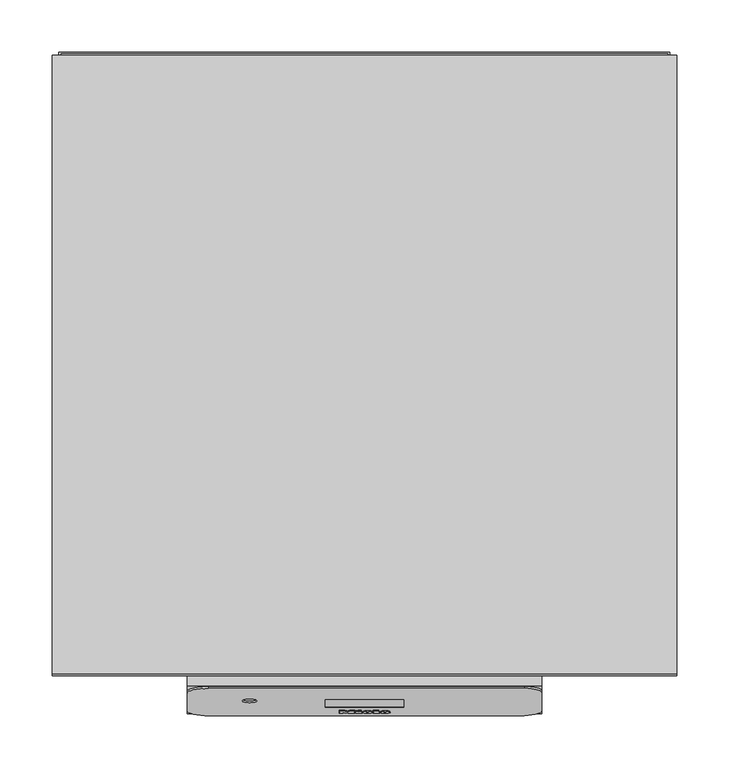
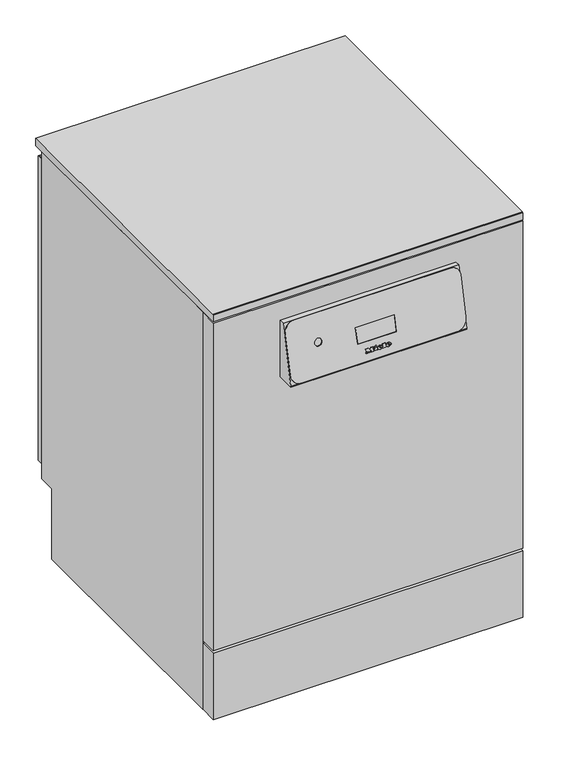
"""IFC4 building model written with IfcOpenShell, lengths in millimetres: proxy geometry, 12065590_NWE_PFD401_SST : 61040110_NWE_12065590_PFD401_SST."""

from ifc_helpers import new_model, si_unit, point, frame, frame_2d, origin, origin_with_axes, place, context, project, spatial, polyline, circle_curve, ellipse_curve, trimmed, segment, composite_curve, outline, extrude, faceted_brep, source, transform, mapped, element, save
from ifc_brep_helpers import plane_surface, cylinder_surface, revolved_surface, extruded_surface, advanced_brep


def specialty_equipment_2b4fe27a(model_context):
    return source(origin(), model_context, "Body", "SolidModel", [
        advanced_brep(
        [(19.2098411, -35.3170778, 679.7116041), (19.2098411, -35.1353173, 680.4988951), (24.5618411, -35.1353173, 680.4988951), (15.2498411, -35.1353173, 680.4988951), (17.4498411, -35.743585, 677.8641985), (24.4258411, -35.3170778, 679.7116041), (22.0098411, -35.3170778, 679.7116041), (20.1058411, -35.5186339, 678.8385685), (19.2098411, -34.9049675, 681.4966501), (19.2098411, -34.7088101, 682.3463008), (20.5778411, -34.7088101, 682.3463008), (20.5778411, -34.9049675, 681.4966501), (19.2098411, -34.3427077, 679.4866531), (20.1058411, -34.5442639, 678.6136175), (22.0098411, -34.3427077, 679.4866531), (24.4258411, -34.3427077, 679.4866531), (17.4498411, -34.7692149, 677.6392474), (15.2498411, -34.1609473, 680.2739441), (24.5618411, -34.1609473, 680.2739441), (19.2098411, -34.1609473, 680.2739441), (19.2098411, -33.9305974, 681.271699), (20.5778411, -33.9305974, 681.271699), (20.5778411, -33.7344401, 682.1213497), (19.2098411, -33.7344401, 682.1213497)],
        [
            (0, 1),
            (1, 2),
            (2, 3, ellipse_curve(frame((19.9058411, -35.1353173, 680.4988951), z_axis=(0.0, -0.9743700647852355, 0.22495105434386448), x_axis=(-1.0, 0.0, 0.0)), 4.656, 3.848)),
            (3, 4, circle_curve(frame((18.3458847, -35.0741307, 680.7639238), z_axis=(0.0, -0.9743700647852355, 0.22495105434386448), x_axis=(0.0, -0.22495105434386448, -0.9743700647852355)), 3.1079688)),
            (4, 5, circle_curve(frame((19.8126347, -34.599034, 682.8217934), z_axis=(0.0, -0.9743700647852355, 0.22495105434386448), x_axis=(0.0, -0.22495105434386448, -0.9743700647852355)), 5.6098607)),
            (5, 6),
            (6, 7, circle_curve(frame((20.4968999, -35.1497142, 680.4365354), z_axis=(0.0, 0.9743700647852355, -0.22495105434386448), x_axis=(0.0, -0.22495105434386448, -0.9743700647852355)), 1.6859795)),
            (7, 0, circle_curve(frame((20.1058411, -35.3170778, 679.7116041), z_axis=(0.0, 0.9743700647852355, -0.22495105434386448), x_axis=(0.0, -0.22495105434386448, -0.9743700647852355)), 0.896)),
            (8, 9),
            (9, 10, circle_curve(frame((19.8938411, -34.7088101, 682.3463008), z_axis=(0.0, 0.9743700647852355, -0.22495105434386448), x_axis=(0.0, -0.22495105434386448, -0.9743700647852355)), 0.684)),
            (10, 11),
            (11, 8),
            (12, 13, circle_curve(frame((20.1058411, -34.3427077, 679.4866531), z_axis=(0.0, -0.9743700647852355, 0.22495105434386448), x_axis=(0.0, -0.22495105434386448, -0.9743700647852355)), 0.896)),
            (13, 14, circle_curve(frame((20.4968999, -34.1753441, 680.2115844), z_axis=(0.0, -0.9743700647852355, 0.22495105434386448), x_axis=(0.0, -0.22495105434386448, -0.9743700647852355)), 1.6859795)),
            (14, 15),
            (15, 16, circle_curve(frame((19.8126347, -33.624664, 682.5968423), z_axis=(0.0, 0.9743700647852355, -0.22495105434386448), x_axis=(0.0, -0.22495105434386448, -0.9743700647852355)), 5.6098607)),
            (16, 17, circle_curve(frame((18.3458847, -34.0997606, 680.5389727), z_axis=(0.0, 0.9743700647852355, -0.22495105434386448), x_axis=(0.0, -0.22495105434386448, -0.9743700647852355)), 3.1079688)),
            (17, 18, ellipse_curve(frame((19.9058411, -34.1609473, 680.2739441), z_axis=(0.0, 0.9743700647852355, -0.22495105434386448), x_axis=(-1.0, 0.0, 0.0)), 4.656, 3.848)),
            (18, 19),
            (19, 12),
            (20, 21),
            (21, 22),
            (22, 23, circle_curve(frame((19.8938411, -33.7344401, 682.1213497), z_axis=(0.0, -0.9743700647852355, 0.22495105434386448), x_axis=(0.0, -0.22495105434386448, -0.9743700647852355)), 0.684)),
            (23, 20),
            (0, 12),
            (19, 1),
            (18, 2),
            (5, 15),
            (14, 6),
            (17, 3),
            (13, 7),
            (16, 4),
            (8, 20),
            (23, 9),
            (22, 10),
            (21, 11),
        ],
        [
            plane_surface(frame((19.2098411, -35.1353173, 680.4988951), z_axis=(0.0, -0.9743700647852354, 0.22495105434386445), x_axis=(0.0, 0.22495105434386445, 0.9743700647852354))),
            plane_surface(frame((19.2098411, -34.1609473, 680.2739441), z_axis=(0.0, 0.9743700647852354, -0.22495105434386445), x_axis=(0.0, -0.22495105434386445, -0.9743700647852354))),
            plane_surface(frame((19.2098411, -35.3170778, 679.7116041), z_axis=(1.0, 0.0, 0.0), x_axis=(0.0, 0.9743700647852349, -0.22495105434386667))),
            plane_surface(frame((19.2098411, -35.1353173, 680.4988951), z_axis=(0.0, -0.22495105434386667, -0.9743700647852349), x_axis=(0.0, 0.9743700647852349, -0.22495105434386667))),
            plane_surface(frame((24.4258411, -35.3170778, 679.7116041), z_axis=(0.0, 0.22495105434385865, 0.9743700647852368), x_axis=(0.0, 0.9743700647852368, -0.22495105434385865))),
            extruded_surface(trimmed(ellipse_curve(frame((19.9058411, -33.1865772, 680.048993), z_axis=(0.0, -0.9743700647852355, 0.22495105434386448), x_axis=(-1.0, 0.0, 0.0)), 4.656, 3.848), [point((24.5618411, -33.1865772, 680.048993))], [point((15.2498411, -33.1865772, 680.048993))], True, "CARTESIAN"), (0.0, -0.9743700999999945, 0.2249510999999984), 1.0000000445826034),
            revolved_surface(polyline([(20.4968999, -34.55460696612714, 678.5688164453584), (20.4968999, -35.52897707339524, 678.7937675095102)]), (20.4968999, -34.1753441, 680.2115844), (0.0, 0.9743700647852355, -0.22495105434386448)),
            revolved_surface(polyline([(20.1058411, -34.544263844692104, 678.6136175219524), (20.1058411, -35.51863393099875, 678.8385685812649)]), (20.1058411, -34.3427077, 679.4866531), (0.0, 0.9743700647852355, -0.22495105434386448)),
            cylinder_surface(frame((18.3458847, -34.0997606, 680.5389727), z_axis=(0.0, -0.9743700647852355, 0.22495105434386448), x_axis=(0.0, -0.22495105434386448, -0.9743700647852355)), 3.1079688),
            cylinder_surface(frame((19.8126347, -33.624664, 682.5968423), z_axis=(0.0, -0.9743700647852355, 0.22495105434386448), x_axis=(0.0, -0.22495105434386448, -0.9743700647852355)), 5.6098607),
            plane_surface(frame((19.2098411, -34.9049675, 681.4966501), z_axis=(1.0, 0.0, 0.0), x_axis=(0.0, 0.9743700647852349, -0.22495105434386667))),
            revolved_surface(polyline([(19.8938411, -33.8883066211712, 681.4548805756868), (19.8938411, -34.8626766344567, 681.6798316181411)]), (19.8938411, -33.7344401, 682.1213497), (0.0, 0.9743700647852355, -0.22495105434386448)),
            plane_surface(frame((20.5778411, -34.7088101, 682.3463008), z_axis=(-1.0, 0.0, 0.0), x_axis=(0.0, 0.9743700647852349, -0.22495105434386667))),
            plane_surface(frame((20.5778411, -34.9049675, 681.4966501), z_axis=(0.0, 0.22495105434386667, 0.9743700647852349), x_axis=(0.0, 0.9743700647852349, -0.22495105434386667))),
        ],
        [
            (0, [[1, 2, 3, 4, 5, 6, 7, 8], [9, 10, 11, 12]]),
            (1, [[13, 14, 15, 16, 17, 18, 19, 20], [21, 22, 23, 24]]),
            (2, [[-1, 25, -20, 26]]),
            (3, [[-2, -26, -19, 27]]),
            (4, [[-6, 28, -15, 29]]),
            (5, [[-3, -27, -18, 30]]),
            (6, [[-7, -29, -14, 31]]),
            (7, [[-8, -31, -13, -25]]),
            (8, [[-4, -30, -17, 32]]),
            (9, [[-5, -32, -16, -28]]),
            (10, [[-9, 33, -24, 34]]),
            (11, [[-10, -34, -23, 35]]),
            (12, [[-11, -35, -22, 36]]),
            (13, [[-12, -36, -21, -33]]),
        ],
    ),
        advanced_brep(
        [(2.5138411, -35.3170778, 679.7116041), (2.5138411, -35.1353173, 680.4988951), (7.8658411, -35.1353173, 680.4988951), (-1.4461589, -35.1353173, 680.4988951), (0.7538411, -35.743585, 677.8641985), (7.7298411, -35.3170778, 679.7116041), (5.3138411, -35.3170778, 679.7116041), (3.4098411, -35.5186339, 678.8385685), (2.5138411, -34.9049675, 681.4966501), (2.5138411, -34.7088101, 682.3463008), (3.8818411, -34.7088101, 682.3463008), (3.8818411, -34.9049675, 681.4966501), (2.5138411, -34.3427077, 679.4866531), (3.4098411, -34.5442639, 678.6136175), (5.3138411, -34.3427077, 679.4866531), (7.7298411, -34.3427077, 679.4866531), (0.7538411, -34.7692149, 677.6392474), (-1.4461589, -34.1609473, 680.2739441), (7.8658411, -34.1609473, 680.2739441), (2.5138411, -34.1609473, 680.2739441), (2.5138411, -33.9305974, 681.271699), (3.8818411, -33.9305974, 681.271699), (3.8818411, -33.7344401, 682.1213497), (2.5138411, -33.7344401, 682.1213497)],
        [
            (0, 1),
            (1, 2),
            (2, 3, ellipse_curve(frame((3.2098411, -35.1353173, 680.4988951), z_axis=(0.0, -0.9743700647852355, 0.22495105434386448), x_axis=(-1.0, 0.0, 0.0)), 4.656, 3.848)),
            (3, 4, circle_curve(frame((1.6498847, -35.0741307, 680.7639238), z_axis=(0.0, -0.9743700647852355, 0.22495105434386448), x_axis=(0.0, -0.22495105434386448, -0.9743700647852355)), 3.1079688)),
            (4, 5, circle_curve(frame((3.1166347, -34.599034, 682.8217934), z_axis=(0.0, -0.9743700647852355, 0.22495105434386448), x_axis=(0.0, -0.22495105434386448, -0.9743700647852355)), 5.6098607)),
            (5, 6),
            (6, 7, circle_curve(frame((3.8008999, -35.1497142, 680.4365354), z_axis=(0.0, 0.9743700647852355, -0.22495105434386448), x_axis=(0.0, -0.22495105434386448, -0.9743700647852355)), 1.6859795)),
            (7, 0, circle_curve(frame((3.4098411, -35.3170778, 679.7116041), z_axis=(0.0, 0.9743700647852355, -0.22495105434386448), x_axis=(0.0, -0.22495105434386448, -0.9743700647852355)), 0.896)),
            (8, 9),
            (9, 10, circle_curve(frame((3.1978411, -34.7088101, 682.3463008), z_axis=(0.0, 0.9743700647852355, -0.22495105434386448), x_axis=(0.0, -0.22495105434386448, -0.9743700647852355)), 0.684)),
            (10, 11),
            (11, 8),
            (12, 13, circle_curve(frame((3.4098411, -34.3427077, 679.4866531), z_axis=(0.0, -0.9743700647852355, 0.22495105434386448), x_axis=(0.0, -0.22495105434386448, -0.9743700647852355)), 0.896)),
            (13, 14, circle_curve(frame((3.8008999, -34.1753441, 680.2115844), z_axis=(0.0, -0.9743700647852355, 0.22495105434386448), x_axis=(0.0, -0.22495105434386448, -0.9743700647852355)), 1.6859795)),
            (14, 15),
            (15, 16, circle_curve(frame((3.1166347, -33.624664, 682.5968423), z_axis=(0.0, 0.9743700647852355, -0.22495105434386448), x_axis=(0.0, -0.22495105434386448, -0.9743700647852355)), 5.6098607)),
            (16, 17, circle_curve(frame((1.6498847, -34.0997606, 680.5389727), z_axis=(0.0, 0.9743700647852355, -0.22495105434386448), x_axis=(0.0, -0.22495105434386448, -0.9743700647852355)), 3.1079688)),
            (17, 18, ellipse_curve(frame((3.2098411, -34.1609473, 680.2739441), z_axis=(0.0, 0.9743700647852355, -0.22495105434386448), x_axis=(-1.0, 0.0, 0.0)), 4.656, 3.848)),
            (18, 19),
            (19, 12),
            (20, 21),
            (21, 22),
            (22, 23, circle_curve(frame((3.1978411, -33.7344401, 682.1213497), z_axis=(0.0, -0.9743700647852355, 0.22495105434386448), x_axis=(0.0, -0.22495105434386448, -0.9743700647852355)), 0.684)),
            (23, 20),
            (0, 12),
            (19, 1),
            (18, 2),
            (5, 15),
            (14, 6),
            (17, 3),
            (13, 7),
            (16, 4),
            (8, 20),
            (23, 9),
            (22, 10),
            (21, 11),
        ],
        [
            plane_surface(frame((2.5138411, -35.1353173, 680.4988951), z_axis=(0.0, -0.9743700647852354, 0.22495105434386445), x_axis=(0.0, 0.22495105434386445, 0.9743700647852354))),
            plane_surface(frame((2.5138411, -34.1609473, 680.2739441), z_axis=(0.0, 0.9743700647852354, -0.22495105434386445), x_axis=(0.0, -0.22495105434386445, -0.9743700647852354))),
            plane_surface(frame((2.5138411, -35.3170778, 679.7116041), z_axis=(1.0000000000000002, 0.0, 0.0), x_axis=(0.0, 0.9743700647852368, -0.22495105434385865))),
            plane_surface(frame((2.5138411, -35.1353173, 680.4988951), z_axis=(0.0, -0.22495105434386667, -0.9743700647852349), x_axis=(0.0, 0.9743700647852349, -0.22495105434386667))),
            plane_surface(frame((7.7298411, -35.3170778, 679.7116041), z_axis=(0.0, 0.22495105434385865, 0.9743700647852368), x_axis=(0.0, 0.9743700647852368, -0.22495105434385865))),
            extruded_surface(trimmed(ellipse_curve(frame((3.2098411, -33.1865772, 680.048993), z_axis=(0.0, -0.9743700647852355, 0.22495105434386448), x_axis=(-1.0, 0.0, 0.0)), 4.656, 3.848), [point((7.8658411, -33.1865772, 680.048993))], [point((-1.4461589, -33.1865772, 680.048993))], True, "CARTESIAN"), (0.0, -0.9743700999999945, 0.2249510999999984), 1.0000000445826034),
            revolved_surface(polyline([(3.8008999, -34.55460696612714, 678.5688164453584), (3.8008999, -35.52897707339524, 678.7937675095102)]), (3.8008999, -34.1753441, 680.2115844), (0.0, 0.9743700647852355, -0.22495105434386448)),
            revolved_surface(polyline([(3.4098411, -34.544263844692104, 678.6136175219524), (3.4098411, -35.51863393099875, 678.8385685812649)]), (3.4098411, -34.3427077, 679.4866531), (0.0, 0.9743700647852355, -0.22495105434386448)),
            cylinder_surface(frame((1.6498847, -34.0997606, 680.5389727), z_axis=(0.0, -0.9743700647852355, 0.22495105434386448), x_axis=(0.0, -0.22495105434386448, -0.9743700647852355)), 3.1079688),
            cylinder_surface(frame((3.1166347, -33.624664, 682.5968423), z_axis=(0.0, -0.9743700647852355, 0.22495105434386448), x_axis=(0.0, -0.22495105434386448, -0.9743700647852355)), 5.6098607),
            plane_surface(frame((2.5138411, -34.9049675, 681.4966501), z_axis=(1.0, 0.0, 0.0), x_axis=(0.0, 0.9743700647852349, -0.22495105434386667))),
            revolved_surface(polyline([(3.1978411, -33.8883066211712, 681.4548805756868), (3.1978411, -34.8626766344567, 681.6798316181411)]), (3.1978411, -33.7344401, 682.1213497), (0.0, 0.9743700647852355, -0.22495105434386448)),
            plane_surface(frame((3.8818411, -34.7088101, 682.3463008), z_axis=(-1.0, 0.0, 0.0), x_axis=(0.0, 0.9743700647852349, -0.22495105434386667))),
            plane_surface(frame((3.8818411, -34.9049675, 681.4966501), z_axis=(0.0, 0.22495105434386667, 0.9743700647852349), x_axis=(0.0, 0.9743700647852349, -0.22495105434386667))),
        ],
        [
            (0, [[1, 2, 3, 4, 5, 6, 7, 8], [9, 10, 11, 12]]),
            (1, [[13, 14, 15, 16, 17, 18, 19, 20], [21, 22, 23, 24]]),
            (2, [[-1, 25, -20, 26]]),
            (3, [[-2, -26, -19, 27]]),
            (4, [[-6, 28, -15, 29]]),
            (5, [[-3, -27, -18, 30]]),
            (6, [[-7, -29, -14, 31]]),
            (7, [[-8, -31, -13, -25]]),
            (8, [[-4, -30, -17, 32]]),
            (9, [[-5, -32, -16, -28]]),
            (10, [[-9, 33, -24, 34]]),
            (11, [[-10, -34, -23, 35]]),
            (12, [[-11, -35, -22, 36]]),
            (13, [[-12, -36, -21, -33]]),
        ],
    ),
        extrude(outline(polyline([(0.0, 0.0), (-0.0109087, -2.9993294), (-1.4390415, -2.9920868), (-1.4315307, 0.0), (0.0, 0.0)])), frame((-6.2301589, -33.0757834, 684.9743053), z_axis=(0.0, -0.9743700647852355, 0.2249510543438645), x_axis=(-0.42472021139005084, 0.20365373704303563, 0.8821212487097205)), (0.0, 0.0, 1.0), 1.0),
        extrude(outline(polyline([(-0.4933908, 2.4141097), (-2.7800844, -2.4601583), (-7.0459742, -0.4588767), (-7.4401146, -1.2990179), (-8.6568709, -0.728194), (-5.9760369, 4.9862153), (-4.7592806, 4.4153913), (-5.1636142, 3.5535222), (-2.1941493, 2.16044), (-1.7898157, 3.022309), (-0.4933908, 2.4141097)])), frame((-6.2301589, -33.0757834, 684.9743053), z_axis=(0.0, -0.9743700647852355, 0.2249510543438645), x_axis=(-0.42472021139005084, 0.20365373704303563, 0.8821212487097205)), (0.0, 0.0, 1.0), 1.0),
        extrude(outline(polyline([(0.0, 0.0), (0.0, -1.3039999), (-5.504, -1.3039999), (-5.504, 5.352), (-6.488, 5.352), (-6.488, 6.696), (0.0, 6.696), (0.0, 5.352), (-0.96, 5.352), (-0.96, 0.0), (0.0, 0.0)])), frame((8.3138411, -33.2629427, 684.1636294), z_axis=(0.0, -0.9743700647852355, 0.22495105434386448), x_axis=(-1.0, 0.0, 0.0)), (0.0, 0.0, 1.0), 1.0),
        extrude(outline(polyline([(0.0, 0.0), (0.0, -1.3039999), (-5.576, -1.3039999), (-7.92, 1.6960001), (-10.256, -1.3039999), (-15.128, -1.3039999), (-15.128, 0.0), (-14.112, 0.0), (-14.112, 5.352), (-15.128, 5.352), (-15.128, 6.696), (-8.744, 6.696), (-8.744, 5.352), (-9.728, 5.352), (-9.728, 1.8807777), (-6.136, 6.696), (-2.56, 1.9488752), (-2.56, 5.352), (-3.52, 5.352), (-3.52, 6.696), (0.0, 6.696), (0.0, 5.352), (-0.968, 5.352), (-0.968, 0.0), (0.0, 0.0)])), frame((-24.1501589, -33.2629427, 684.1636294), z_axis=(0.0, -0.9743700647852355, 0.22495105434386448), x_axis=(-1.0, 0.0, 0.0)), (0.0, 0.0, 1.0), 1.0),
        extrude(outline(polyline([(1.7745866, 832.3), (594.2, 832.3), (594.2, 817.0), (0.2, 817.0), (0.2, 830.7254134), (1.7745866, 832.3)])), frame((-299.0, 0.0, 0.0), z_axis=(1.0, 0.0, 0.0), x_axis=(0.0, 1.0, 0.0)), (0.0, 0.0, 1.0), 598.0),
        extrude(outline(polyline([(-0.1038681, 775.5857792), (-0.1038681, 660.0), (-36.1981904, 660.0), (-36.1981904, 662.5588517), (-10.1038681, 775.5857792), (-0.1038681, 775.5857792)])), frame((-169.8831565, 0.0, 0.0), z_axis=(1.0, 0.0, 0.0), x_axis=(0.0, 1.0, 0.0)), (0.0, 0.0, 1.0), 339.766313),
        extrude(outline(polyline([(299.0, 34.0), (299.0, 0.0), (-299.0, 0.0), (-299.0, 34.0), (299.0, 34.0)])), frame((0.0, 0.0, 4.5), z_axis=(0.0, 0.0, 1.0), x_axis=(1.0, 0.0, 0.0)), (0.0, 0.0, 1.0), 135.5),
        extrude(outline(polyline([(299.0, 34.0), (299.0, 0.0), (-299.0, 0.0), (-299.0, 34.0), (299.0, 34.0)])), frame((0.0, 0.0, 145.0), z_axis=(0.0, 0.0, 1.0), x_axis=(1.0, 0.0, 0.0)), (0.0, 0.0, 1.0), 670.0),
        advanced_brep(
        [(153.3281651, -12.0526082, 776.0356813), (-148.8831565, -12.0526082, 776.0356813), (-169.8831565, -16.7765804, 755.57391), (-169.8831565, -33.4229584, 683.4705252), (-148.8831565, -38.1469305, 663.0087538), (148.8831565, -38.1469305, 663.0087538), (169.8831565, -33.4229584, 683.4705252), (169.8831565, -15.776671, 759.9049933), (-102.8831565, -24.0088923, 724.2473253), (-116.8831565, -24.0088923, 724.2473253), (37.5, -23.1425191, 728.0), (37.5, -30.0685648, 698.0), (-37.5, -30.0685648, 698.0), (-37.5, -23.1425191, 728.0), (153.3281651, -10.1038681, 775.5857792), (169.8831565, -13.8279308, 759.4550912), (169.8831565, -31.4742182, 683.0206231), (148.8831565, -36.1981904, 662.5588517), (-148.8831565, -36.1981904, 662.5588517), (-169.8831565, -31.4742182, 683.0206231), (-169.8831565, -14.8278402, 755.1240079), (-148.8831565, -10.1038681, 775.5857792), (37.5, -28.0159566, 698.0), (37.5, -21.0899109, 728.0), (-37.5, -21.0899109, 728.0), (-37.5, -28.0159566, 698.0), (-116.8831565, -22.4281396, 723.8823798), (-102.8831565, -22.4281396, 723.8823798)],
        [
            (0, 1),
            (1, 2, circle_curve(frame((-148.8831565, -16.7765804, 755.57391), z_axis=(0.0, -0.9743700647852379, 0.22495105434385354), x_axis=(1.0, 0.0, 0.0)), 21.0)),
            (2, 3),
            (3, 4, circle_curve(frame((-148.8831565, -33.4229584, 683.4705252), z_axis=(0.0, -0.9743700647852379, 0.22495105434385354), x_axis=(1.0, 0.0, 0.0)), 21.0)),
            (4, 5),
            (5, 6, circle_curve(frame((148.8831565, -33.4229584, 683.4705252), z_axis=(0.0, -0.9743700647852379, 0.22495105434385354), x_axis=(1.0, 0.0, 0.0)), 21.0)),
            (6, 7),
            (7, 0, circle_curve(frame((153.3281651, -15.776671, 759.9049933), z_axis=(0.0, -0.9743700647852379, 0.22495105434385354), x_axis=(1.0, 0.0, 0.0)), 16.5549913)),
            (8, 9, circle_curve(frame((-109.8831565, -24.0088923, 724.2473253), z_axis=(0.0, 0.9743700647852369, -0.22495105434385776), x_axis=(1.0, 0.0, 0.0)), 7.0)),
            (9, 8, circle_curve(frame((-109.8831565, -24.0088923, 724.2473253), z_axis=(0.0, 0.9743700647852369, -0.22495105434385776), x_axis=(1.0, 0.0, 0.0)), 7.0)),
            (10, 11),
            (11, 12),
            (12, 13),
            (13, 10),
            (14, 15, circle_curve(frame((153.3281651, -13.8279308, 759.4550912), z_axis=(0.0, 0.9743700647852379, -0.22495105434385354), x_axis=(1.0, 0.0, 0.0)), 16.5549913)),
            (15, 16),
            (16, 17, circle_curve(frame((148.8831565, -31.4742182, 683.0206231), z_axis=(0.0, 0.9743700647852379, -0.22495105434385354), x_axis=(1.0, 0.0, 0.0)), 21.0)),
            (17, 18),
            (18, 19, circle_curve(frame((-148.8831565, -31.4742182, 683.0206231), z_axis=(0.0, 0.9743700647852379, -0.22495105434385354), x_axis=(1.0, 0.0, 0.0)), 21.0)),
            (19, 20),
            (20, 21, circle_curve(frame((-148.8831565, -14.8278402, 755.1240079), z_axis=(0.0, 0.9743700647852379, -0.22495105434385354), x_axis=(1.0, 0.0, 0.0)), 21.0)),
            (21, 14),
            (22, 23),
            (23, 24),
            (24, 25),
            (25, 22),
            (0, 14),
            (21, 1),
            (20, 2),
            (19, 3),
            (18, 4),
            (17, 5),
            (16, 6),
            (15, 7),
            (10, 23),
            (22, 11),
            (12, 25),
            (24, 13),
            (26, 27, circle_curve(frame((-109.8831565, -22.4281396, 723.8823798), z_axis=(0.0, -0.9743700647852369, 0.22495105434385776), x_axis=(1.0, 0.0, 0.0)), 7.0)),
            (27, 26, circle_curve(frame((-109.8831565, -22.4281396, 723.8823798), z_axis=(0.0, -0.9743700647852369, 0.22495105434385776), x_axis=(1.0, 0.0, 0.0)), 7.0)),
            (26, 9),
            (8, 27),
        ],
        [
            plane_surface(frame((-166.8819453, -12.0526082, 776.0356813), z_axis=(0.0, -0.9743700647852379, 0.22495105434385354), x_axis=(-1.0, 0.0, 0.0))),
            plane_surface(frame((-166.8819453, -10.1038681, 775.5857792), z_axis=(0.0, 0.9743700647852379, -0.22495105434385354), x_axis=(1.0, 0.0, 0.0))),
            plane_surface(frame((153.3281651, -12.0526082, 776.0356813), z_axis=(0.0, 0.22495105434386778, 0.9743700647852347), x_axis=(0.0, 0.9743700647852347, -0.22495105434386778))),
            cylinder_surface(frame((-148.8831565, -14.8278402, 755.1240079), z_axis=(0.0, -0.9743700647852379, 0.22495105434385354), x_axis=(1.0, 0.0, 0.0)), 21.0),
            plane_surface(frame((-169.8831565, -16.7765804, 755.57391), z_axis=(-1.0, 0.0, 0.0), x_axis=(0.0, 0.9743700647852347, -0.22495105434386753))),
            cylinder_surface(frame((-148.8831565, -31.4742182, 683.0206231), z_axis=(0.0, -0.9743700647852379, 0.22495105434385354), x_axis=(1.0, 0.0, 0.0)), 21.0),
            plane_surface(frame((-148.8831565, -38.1469305, 663.0087538), z_axis=(0.0, -0.22495105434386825, -0.9743700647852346), x_axis=(0.0, 0.9743700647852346, -0.22495105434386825))),
            cylinder_surface(frame((148.8831565, -31.4742182, 683.0206231), z_axis=(0.0, -0.9743700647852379, 0.22495105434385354), x_axis=(1.0, 0.0, 0.0)), 21.0),
            plane_surface(frame((169.8831565, -33.4229584, 683.4705252), z_axis=(1.0000000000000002, 0.0, 0.0), x_axis=(0.0, 0.9743700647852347, -0.22495105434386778))),
            cylinder_surface(frame((153.3281651, -13.8279308, 759.4550912), z_axis=(0.0, -0.9743700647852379, 0.22495105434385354), x_axis=(1.0, 0.0, 0.0)), 16.5549913),
            plane_surface(frame((37.5, -23.1425191, 728.0), z_axis=(-1.0000000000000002, 0.0, 0.0), x_axis=(0.0, -0.22495105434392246, -0.974370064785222))),
            plane_surface(frame((-37.5, -23.1425191, 728.0), z_axis=(1.0000000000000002, 0.0, 0.0), x_axis=(0.0, 0.22495105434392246, 0.974370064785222))),
            plane_surface(frame((37.5, -30.0685648, 698.0), z_axis=(0.0, 0.0, 1.0), x_axis=(-1.0, 0.0, 0.0))),
            plane_surface(frame((37.5, -21.0899109, 728.0), z_axis=(0.0, 0.0, -1.0), x_axis=(-1.0, 0.0, 0.0))),
            plane_surface(frame((-102.8831565, -22.4281396, 723.8823798), z_axis=(0.0, -0.9743700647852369, 0.2249510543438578), x_axis=(0.0, -0.2249510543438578, -0.9743700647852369))),
            revolved_surface(polyline([(-102.8831565, -24.008892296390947, 724.2473253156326), (-102.8831565, -22.4281396, 723.8823798)]), (-109.8831565, -22.4281396, 723.8823798), (0.0, -0.9743700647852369, 0.22495105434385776)),
        ],
        [
            (0, [[1, 2, 3, 4, 5, 6, 7, 8], [9, 10], [11, 12, 13, 14]]),
            (1, [[15, 16, 17, 18, 19, 20, 21, 22], [23, 24, 25, 26]]),
            (2, [[-1, 27, -22, 28]]),
            (3, [[-2, -28, -21, 29]]),
            (4, [[-3, -29, -20, 30]]),
            (5, [[-4, -30, -19, 31]]),
            (6, [[-5, -31, -18, 32]]),
            (7, [[-6, -32, -17, 33]]),
            (8, [[-7, -33, -16, 34]]),
            (9, [[-8, -34, -15, -27]]),
            (10, [[35, -23, 36, -11]]),
            (11, [[37, -25, 38, -13]]),
            (12, [[-36, -26, -37, -12]]),
            (13, [[-35, -14, -38, -24]]),
            (14, [[39, 40]]),
            (15, [[-39, 41, -9, 42]]),
            (15, [[-40, -42, -10, -41]]),
        ],
    ),
        extrude(outline(polyline([(-23.1425191, 728.0), (-21.0899109, 728.0), (-28.0159566, 698.0), (-30.0685648, 698.0), (-23.1425191, 728.0)])), frame((-37.5, 0.0, 0.0), z_axis=(1.0, 0.0, 0.0), x_axis=(0.0, 1.0, 0.0)), (0.0, 0.0, 1.0), 75.0),
        extrude(outline(polyline([(35.0, 817.0), (575.0, 817.0), (575.0, 148.0), (541.0, 148.0), (541.0, 4.2000122), (35.0, 4.2000122), (35.0, 817.0)])), frame((-299.0, 0.0, 0.0), z_axis=(1.0, 0.0, 0.0), x_axis=(0.0, 1.0, 0.0)), (0.0, 0.0, 1.0), 598.0),
        extrude(outline(polyline([(-172.0947306, 541.0), (-252.9150967, 541.0), (-252.9150967, 546.8796322), (-172.0947306, 546.8796322), (-172.0947306, 541.0)])), frame((0.0, 0.0, 83.2113443), z_axis=(0.0, 0.0, 1.0), x_axis=(1.0, 0.0, 0.0)), (0.0, 0.0, 1.0), 9.5402229),
        extrude(outline(polyline([(-172.0947306, 541.0), (-252.9150967, 541.0), (-252.9150967, 546.8796322), (-172.0947306, 546.8796322), (-172.0947306, 541.0)])), frame((0.0, 0.0, 49.1113767), z_axis=(0.0, 0.0, 1.0), x_axis=(1.0, 0.0, 0.0)), (0.0, 0.0, 1.0), 11.5700235),
        extrude(outline(polyline([(-172.0947306, 541.0), (-252.9150967, 541.0), (-252.9150967, 546.8796322), (-172.0947306, 546.8796322), (-172.0947306, 541.0)])), frame((0.0, 0.0, 67.2113431), z_axis=(0.0, 0.0, 1.0), x_axis=(1.0, 0.0, 0.0)), (0.0, 0.0, 1.0), 9.5826234),
        faceted_brep([(292.4999939, 597.3069992, 792.0057337), (292.4999939, 575.0, 792.0057337), (292.4999939, 575.0, 170.291519), (292.4999939, 597.3069992, 170.291519), (-292.5000061, 597.3069992, 792.0057337), (-292.5000061, 597.3069992, 170.291519), (-200.000102, 597.3069992, 319.6113699), (-200.000102, 597.3069992, 244.365213), (-125.000102, 597.3069992, 244.365213), (-125.000102, 597.3069992, 319.6113699), (-200.000102, 596.3069992, 244.365213), (-200.000102, 596.3069992, 319.6113699), (-125.000102, 596.3069992, 244.365213), (-125.000102, 596.3069992, 319.6113699), (-292.5000061, 575.0, 792.0057337), (-291.0000061, 575.0, 792.0057337), (-291.0000061, 596.3069992, 792.0057337), (290.9999949, 596.3069992, 792.0057337), (290.9999949, 575.0, 792.0057337), (290.9999949, 575.0, 170.291519), (290.9999949, 596.3069992, 170.291519), (-291.0000061, 596.3069992, 170.291519), (-291.0000061, 575.0, 170.291519), (-292.5000061, 575.0, 170.291519)], [[[0, 1, 2, 3]], [[4, 0, 3, 5], [6, 7, 8, 9]], [[10, 7, 6, 11]], [[7, 10, 12, 8]], [[8, 12, 13, 9]], [[11, 6, 9, 13]], [[0, 4, 14, 15, 16, 17, 18, 1]], [[3, 2, 19, 20, 21, 22, 23, 5]], [[14, 4, 5, 23]], [[15, 14, 23, 22]], [[16, 15, 22, 21]], [[17, 16, 21, 20], [10, 11, 13, 12]], [[18, 17, 20, 19]], [[1, 18, 19, 2]]]),
        extrude(outline(polyline([(70.6242327, 186.565003), (80.6698637, 186.565003), (80.6698637, 179.3447057), (79.4141598, 179.3447057), (79.4141598, 185.3092991), (76.4318631, 185.3092991), (76.4318631, 179.6586317), (75.1761592, 179.6586317), (75.1761592, 185.3092991), (71.8799366, 185.3092991), (71.8799366, 179.1877427), (70.6242327, 179.1877427), (70.6242327, 186.565003)])), frame((0.0, 571.0, 0.0), z_axis=(0.0, 1.0, 0.0), x_axis=(0.0, 0.0, 1.0)), (0.0, 0.0, 1.0), 1.0),
        extrude(outline(polyline([(70.6242327, 177.3041869), (80.6698637, 177.3041869), (80.6698637, 176.048483), (71.8799366, 176.048483), (71.8799366, 171.0256675), (70.6242327, 171.0256675), (70.6242327, 177.3041869)])), frame((0.0, 571.0, 0.0), z_axis=(0.0, 1.0, 0.0), x_axis=(0.0, 0.0, 1.0)), (0.0, 0.0, 1.0), 1.0),
        extrude(outline(polyline([(46.0, 96.7862239), (56.045631, 92.7763102), (56.045631, 91.7069998), (46.0, 87.6970861), (46.0, 89.0239138), (49.1392597, 90.1741582), (49.1392597, 94.3116044), (46.0, 95.4593962), (46.0, 96.7862239)]), holes=[polyline([(50.3949636, 93.8505256), (50.3949636, 90.6327844), (52.864678, 91.5377741), (54.7899271, 92.241655), (53.0805021, 92.8670544), (50.3949636, 93.8505256)])]), frame((0.0, 571.0, 0.0), z_axis=(0.0, 1.0, 0.0), x_axis=(0.0, 0.0, 1.0)), (0.0, 0.0, 1.0), 1.0),
        extrude(outline(polyline([(46.0, 84.5578264), (56.045631, 87.297321), (56.045631, 86.0023764), (49.4433755, 84.4131261), (47.4053092, 83.9226168), (49.207931, 83.3977718), (56.045631, 81.406304), (56.045631, 79.539916), (51.0890343, 78.0929135), (47.4053092, 77.0162455), (49.3845144, 76.5404514), (56.045631, 74.936486), (56.045631, 73.6415413), (46.0, 76.3834885), (46.0, 77.7250315), (53.7500474, 80.1334323), (54.8316204, 80.4694312), (53.5293182, 80.8471233), (46.0, 83.0421526), (46.0, 84.5578264)])), frame((0.0, 571.0, 0.0), z_axis=(0.0, 1.0, 0.0), x_axis=(0.0, 0.0, 1.0)), (0.0, 0.0, 1.0), 1.0),
        extrude(outline(composite_curve([segment(trimmed(circle_curve(frame_2d((51.0, 85.0998392)), 8.0), [point((51.0, 77.0998392))], [point((51.0, 93.0998392))], False, "CARTESIAN"), True, "CONTINUOUS"), segment(trimmed(circle_curve(frame_2d((51.0, 85.0998392)), 8.0), [point((51.0, 93.0998392))], [point((51.0, 77.0998392))], False, "CARTESIAN"), True, "CONTINUOUS")], self_intersect=False)), frame((0.0, 541.0, 0.0), z_axis=(0.0, 1.0, 0.0), x_axis=(0.0, 0.0, 1.0)), (0.0, 0.0, 1.0), 30.0),
        extrude(outline(polyline([(94.6239875, 133.557834), (104.6696185, 136.2973286), (104.6696185, 135.002384), (98.067363, 133.4131338), (96.0292967, 132.9226244), (97.8319185, 132.3977795), (104.6696185, 130.4063116), (104.6696185, 128.5399236), (99.7130218, 127.0929211), (96.0292967, 126.0162531), (98.0085019, 125.5404591), (104.6696185, 123.9364936), (104.6696185, 122.641549), (94.6239875, 125.3834961), (94.6239875, 126.7250391), (102.3740349, 129.1334399), (103.4556079, 129.4694388), (102.1533057, 129.847131), (94.6239875, 132.0421602), (94.6239875, 133.557834)])), frame((0.0, 571.0, 0.0), z_axis=(0.0, 1.0, 0.0), x_axis=(0.0, 0.0, 1.0)), (0.0, 0.0, 1.0), 1.0),
        extrude(outline(polyline([(94.6239875, 144.6163668), (104.6696185, 144.6163668), (104.6696185, 143.3606629), (99.7522625, 143.3606629), (104.6696185, 138.210315), (104.6696185, 136.4542916), (100.53953, 140.7781313), (94.6239875, 136.2973286), (94.6239875, 137.8326228), (99.6909489, 141.6684057), (98.0771732, 143.3606629), (94.6239875, 143.3606629), (94.6239875, 144.6163668)])), frame((0.0, 571.0, 0.0), z_axis=(0.0, 1.0, 0.0), x_axis=(0.0, 0.0, 1.0)), (0.0, 0.0, 1.0), 1.0),
        extrude(outline(polyline([(118.1398187, 18.2077062), (128.1854497, 18.2077062), (128.1854497, 14.7422578), (128.0407495, 12.9494462), (127.3221533, 11.4730132), (125.6053707, 10.283528), (123.2165903, 9.888668), (121.1895605, 10.1559956), (119.7266164, 10.8427087), (118.8154953, 11.7599611), (118.311497, 12.9604827), (118.1398187, 14.5754846), (118.1398187, 18.2077062)]), holes=[polyline([(119.3955226, 16.9520023), (119.3955226, 14.7299951), (119.5770111, 13.1137669), (120.0895933, 12.1817991), (121.3367133, 11.4178309), (123.2362106, 11.1443719), (125.6151809, 11.6802533), (126.728637, 12.9837819), (126.9297459, 14.7643307), (126.9297459, 16.9520023), (119.3955226, 16.9520023)])]), frame((0.0, 571.0, 0.0), z_axis=(0.0, 1.0, 0.0), x_axis=(0.0, 0.0, 1.0)), (0.0, 0.0, 1.0), 1.0),
        extrude(outline(polyline([(121.5930044, 8.6329642), (121.5930044, 7.3772603), (120.3360742, 6.9725901), (119.5414491, 5.9842138), (119.2385596, 4.4783502), (119.4678727, 3.1662377), (120.0981772, 2.3188828), (120.940627, 2.0405188), (121.7242156, 2.2489853), (122.2944327, 3.1024715), (122.7739056, 4.930845), (123.3931736, 6.8990137), (124.3275939, 7.9670977), (125.5759401, 8.3190382), (126.9971909, 7.8837112), (128.0002825, 6.6120657), (128.3424127, 4.7505828), (127.9843409, 2.7640201), (126.9321984, 1.4396449), (125.360116, 0.9417779), (125.360116, 2.1974818), (126.6501555, 2.9087203), (127.0867088, 4.7015319), (126.6550606, 6.4992486), (125.6127283, 7.0633343), (124.7420743, 6.6635692), (124.0406459, 4.6132402), (123.4103414, 2.391233), (122.3925346, 1.1759961), (120.9725101, 0.7848149), (119.4703253, 1.2348572), (118.3740369, 2.5298019), (117.9828557, 4.4292992), (118.4046938, 6.6721531), (119.6751129, 8.0909513), (121.5930044, 8.6329642)])), frame((0.0, 571.0, 0.0), z_axis=(0.0, 1.0, 0.0), x_axis=(0.0, 0.0, 1.0)), (0.0, 0.0, 1.0), 1.0),
        extrude(outline(composite_curve([segment(trimmed(circle_curve(frame_2d((126.8499756, 10.1811127)), 2.9851521), [point((126.8499756, 7.1959606))], [point((126.8499756, 13.1662647))], False, "CARTESIAN"), True, "CONTINUOUS"), segment(trimmed(circle_curve(frame_2d((126.8499756, 10.1811127)), 2.9851521), [point((126.8499756, 13.1662647))], [point((126.8499756, 7.1959606))], False, "CARTESIAN"), True, "CONTINUOUS")], self_intersect=False)), frame((0.0, 541.0, 0.0), z_axis=(0.0, 1.0, 0.0), x_axis=(0.0, 0.0, 1.0)), (0.0, 0.0, 1.0), 30.0),
        extrude(outline(composite_curve([segment(trimmed(circle_curve(frame_2d((117.0999756, 10.1811127)), 3.0), [point((117.0999756, 7.1811127))], [point((117.0999756, 13.1811127))], False, "CARTESIAN"), True, "CONTINUOUS"), segment(trimmed(circle_curve(frame_2d((117.0999756, 10.1811127)), 3.0), [point((117.0999756, 13.1811127))], [point((117.0999756, 7.1811127))], False, "CARTESIAN"), True, "CONTINUOUS")], self_intersect=False)), frame((0.0, 541.0, 0.0), z_axis=(0.0, 1.0, 0.0), x_axis=(0.0, 0.0, 1.0)), (0.0, 0.0, 1.0), 30.0),
        extrude(outline(composite_curve([segment(trimmed(circle_curve(frame_2d((107.3499443, 10.1811127)), 3.0), [point((107.3499443, 7.1811127))], [point((107.3499443, 13.1811127))], False, "CARTESIAN"), True, "CONTINUOUS"), segment(trimmed(circle_curve(frame_2d((107.3499443, 10.1811127)), 3.0), [point((107.3499443, 13.1811127))], [point((107.3499443, 7.1811127))], False, "CARTESIAN"), True, "CONTINUOUS")], self_intersect=False)), frame((0.0, 541.0, 0.0), z_axis=(0.0, 1.0, 0.0), x_axis=(0.0, 0.0, 1.0)), (0.0, 0.0, 1.0), 30.0),
        extrude(outline(composite_curve([segment(trimmed(circle_curve(frame_2d((136.5999756, 10.1811127)), 3.0), [point((136.5999756, 7.1811127))], [point((136.5999756, 13.1811127))], False, "CARTESIAN"), True, "CONTINUOUS"), segment(trimmed(circle_curve(frame_2d((136.5999756, 10.1811127)), 3.0), [point((136.5999756, 13.1811127))], [point((136.5999756, 7.1811127))], False, "CARTESIAN"), True, "CONTINUOUS")], self_intersect=False)), frame((0.0, 541.0, 0.0), z_axis=(0.0, 1.0, 0.0), x_axis=(0.0, 0.0, 1.0)), (0.0, 0.0, 1.0), 30.0),
        extrude(outline(polyline([(99.6239875, 19.6811122), (148.0, 19.6811122), (148.0, 1.1811127), (99.6239875, 1.1811127), (99.6239875, 19.6811122)]), holes=[polyline([(100.6239875, 18.6811122), (100.6239875, 2.1811127), (147.0, 2.1811127), (147.0, 18.6811122), (100.6239875, 18.6811122)])]), frame((0.0, 541.0, 0.0), z_axis=(0.0, 1.0, 0.0), x_axis=(0.0, 0.0, 1.0)), (0.0, 0.0, 1.0), 1.0),
        extrude(outline(polyline([(41.5900269, 145.1730949), (51.6356579, 147.9125895), (51.6356579, 146.6176449), (45.0334023, 145.0283946), (42.9953361, 144.5378853), (44.7979579, 144.0130403), (51.6356579, 142.0215725), (51.6356579, 140.1551845), (46.6790611, 138.708182), (42.9953361, 137.631514), (44.9745412, 137.1557199), (51.6356579, 135.5517544), (51.6356579, 134.2568098), (41.5900269, 136.998757), (41.5900269, 138.3403), (49.3400742, 140.7487008), (50.4216473, 141.0846996), (49.119345, 141.4623918), (41.5900269, 143.6574211), (41.5900269, 145.1730949)])), frame((0.0, 571.0, 0.0), z_axis=(0.0, 1.0, 0.0), x_axis=(0.0, 0.0, 1.0)), (0.0, 0.0, 1.0), 1.0),
        extrude(outline(polyline([(41.5900269, 131.2033893), (51.6356579, 133.9428838), (51.6356579, 132.6479392), (45.0334023, 131.058689), (42.9953361, 130.5681797), (44.7979579, 130.0433347), (51.6356579, 128.0518668), (51.6356579, 126.1854788), (46.6790611, 124.7384763), (42.9953361, 123.6618084), (44.9745412, 123.1860143), (51.6356579, 121.5820488), (51.6356579, 120.2871042), (41.5900269, 123.0290513), (41.5900269, 124.3705943), (49.3400742, 126.7789951), (50.4216473, 127.114994), (49.119345, 127.4926862), (41.5900269, 129.6877154), (41.5900269, 131.2033893)])), frame((0.0, 571.0, 0.0), z_axis=(0.0, 1.0, 0.0), x_axis=(0.0, 0.0, 1.0)), (0.0, 0.0, 1.0), 1.0),
        extrude(outline(composite_curve([segment(trimmed(circle_curve(frame_2d((46.5900269, 134.0998468)), 8.0), [point((46.5900269, 126.0998468))], [point((46.5900269, 142.0998468))], False, "CARTESIAN"), True, "CONTINUOUS"), segment(trimmed(circle_curve(frame_2d((46.5900269, 134.0998468)), 8.0), [point((46.5900269, 142.0998468))], [point((46.5900269, 126.0998468))], False, "CARTESIAN"), True, "CONTINUOUS")], self_intersect=False)), frame((0.0, 541.0, 0.0), z_axis=(0.0, 1.0, 0.0), x_axis=(0.0, 0.0, 1.0)), (0.0, 0.0, 1.0), 30.0),
        extrude(outline(polyline([(118.1398187, -7.1235653), (128.1854497, -7.1235653), (128.1854497, -10.5890137), (128.0407495, -12.3818253), (127.3221533, -13.8582584), (125.6053707, -15.0477435), (123.2165903, -15.4426035), (121.1895605, -15.1752759), (119.7266164, -14.4885629), (118.8154953, -13.5713104), (118.311497, -12.3707889), (118.1398187, -10.7557869), (118.1398187, -7.1235653)]), holes=[polyline([(119.3955226, -8.3792692), (119.3955226, -10.6012765), (119.5770111, -12.2175047), (120.0895933, -13.1494724), (121.3367133, -13.9134407), (123.2362106, -14.1868996), (125.6151809, -13.6510182), (126.728637, -12.3474897), (126.9297459, -10.5669408), (126.9297459, -8.3792692), (119.3955226, -8.3792692)])]), frame((0.0, 571.0, 0.0), z_axis=(0.0, 1.0, 0.0), x_axis=(0.0, 0.0, 1.0)), (0.0, 0.0, 1.0), 1.0),
        extrude(outline(polyline([(121.5930044, -16.6983074), (121.5930044, -17.9540113), (120.3360742, -18.3586815), (119.5414491, -19.3470578), (119.2385596, -20.8529214), (119.4678727, -22.1650338), (120.0981772, -23.0123887), (120.940627, -23.2907528), (121.7242156, -23.0822863), (122.2944327, -22.2288001), (122.7739056, -20.4004265), (123.3931736, -18.4322579), (124.3275939, -17.3641738), (125.5759401, -17.0122334), (126.9971909, -17.4475604), (128.0002825, -18.7192058), (128.3424127, -20.5806887), (127.9843409, -22.5672515), (126.9321984, -23.8916267), (125.360116, -24.3894936), (125.360116, -23.1337898), (126.6501555, -22.4225512), (127.0867088, -20.6297397), (126.6550606, -18.832023), (125.6127283, -18.2679372), (124.7420743, -18.6677023), (124.0406459, -20.7180313), (123.4103414, -22.9400386), (122.3925346, -24.1552754), (120.9725101, -24.5464566), (119.4703253, -24.0964143), (118.3740369, -22.8014697), (117.9828557, -20.9019723), (118.4046938, -18.6591184), (119.6751129, -17.2403202), (121.5930044, -16.6983074)])), frame((0.0, 571.0, 0.0), z_axis=(0.0, 1.0, 0.0), x_axis=(0.0, 0.0, 1.0)), (0.0, 0.0, 1.0), 1.0),
        extrude(outline(composite_curve([segment(trimmed(circle_curve(frame_2d((126.8499756, -15.1501589)), 2.9851521), [point((126.8499756, -18.135311))], [point((126.8499756, -12.1650068))], False, "CARTESIAN"), True, "CONTINUOUS"), segment(trimmed(circle_curve(frame_2d((126.8499756, -15.1501589)), 2.9851521), [point((126.8499756, -12.1650068))], [point((126.8499756, -18.135311))], False, "CARTESIAN"), True, "CONTINUOUS")], self_intersect=False)), frame((0.0, 541.0, 0.0), z_axis=(0.0, 1.0, 0.0), x_axis=(0.0, 0.0, 1.0)), (0.0, 0.0, 1.0), 30.0),
        extrude(outline(composite_curve([segment(trimmed(circle_curve(frame_2d((117.0999756, -15.1501589)), 3.0), [point((117.0999756, -18.1501589))], [point((117.0999756, -12.1501589))], False, "CARTESIAN"), True, "CONTINUOUS"), segment(trimmed(circle_curve(frame_2d((117.0999756, -15.1501589)), 3.0), [point((117.0999756, -12.1501589))], [point((117.0999756, -18.1501589))], False, "CARTESIAN"), True, "CONTINUOUS")], self_intersect=False)), frame((0.0, 541.0, 0.0), z_axis=(0.0, 1.0, 0.0), x_axis=(0.0, 0.0, 1.0)), (0.0, 0.0, 1.0), 30.0),
        extrude(outline(composite_curve([segment(trimmed(circle_curve(frame_2d((107.3499443, -15.1501589)), 3.0), [point((107.3499443, -18.1501589))], [point((107.3499443, -12.1501589))], False, "CARTESIAN"), True, "CONTINUOUS"), segment(trimmed(circle_curve(frame_2d((107.3499443, -15.1501589)), 3.0), [point((107.3499443, -12.1501589))], [point((107.3499443, -18.1501589))], False, "CARTESIAN"), True, "CONTINUOUS")], self_intersect=False)), frame((0.0, 541.0, 0.0), z_axis=(0.0, 1.0, 0.0), x_axis=(0.0, 0.0, 1.0)), (0.0, 0.0, 1.0), 30.0),
        extrude(outline(composite_curve([segment(trimmed(circle_curve(frame_2d((136.5999756, -15.1501589)), 3.0), [point((136.5999756, -18.1501589))], [point((136.5999756, -12.1501589))], False, "CARTESIAN"), True, "CONTINUOUS"), segment(trimmed(circle_curve(frame_2d((136.5999756, -15.1501589)), 3.0), [point((136.5999756, -12.1501589))], [point((136.5999756, -18.1501589))], False, "CARTESIAN"), True, "CONTINUOUS")], self_intersect=False)), frame((0.0, 541.0, 0.0), z_axis=(0.0, 1.0, 0.0), x_axis=(0.0, 0.0, 1.0)), (0.0, 0.0, 1.0), 30.0),
        extrude(outline(polyline([(99.6239875, -5.6501594), (148.0, -5.6501594), (148.0, -24.1501589), (99.6239875, -24.1501589), (99.6239875, -5.6501594)]), holes=[polyline([(100.6239875, -6.6501594), (100.6239875, -23.1501589), (147.0, -23.1501589), (147.0, -6.6501594), (100.6239875, -6.6501594)])]), frame((0.0, 541.0, 0.0), z_axis=(0.0, 1.0, 0.0), x_axis=(0.0, 0.0, 1.0)), (0.0, 0.0, 1.0), 1.0),
        extrude(outline(polyline([(294.0108337, -153.1353281), (304.0564648, -153.1353281), (304.0564648, -156.6007765), (303.9117645, -158.3935881), (303.1931683, -159.8700212), (301.4763857, -161.0595063), (299.0876053, -161.4543663), (297.0605755, -161.1870387), (295.5976314, -160.5003256), (294.6865103, -159.5830732), (294.182512, -158.3825516), (294.0108337, -156.7675497), (294.0108337, -153.1353281)]), holes=[polyline([(295.2665376, -154.391032), (295.2665376, -156.6130392), (295.4480261, -158.2292675), (295.9606083, -159.1612352), (297.2077283, -159.9252035), (299.1072256, -160.1986624), (301.4861959, -159.662781), (302.5996521, -158.3592524), (302.8007609, -156.5787036), (302.8007609, -154.391032), (295.2665376, -154.391032)])]), frame((0.0, 585.0, 0.0), z_axis=(0.0, 1.0, 0.0), x_axis=(0.0, 0.0, 1.0)), (0.0, 0.0, 1.0), 1.0),
        extrude(outline(polyline([(297.4640194, -162.7100702), (297.4640194, -163.965774), (296.2070893, -164.3704442), (295.4124641, -165.3588205), (295.1095746, -166.8646842), (295.3388877, -168.1767966), (295.9691922, -169.0241515), (296.811642, -169.3025155), (297.5952306, -169.094049), (298.1654477, -168.2405628), (298.6449206, -166.4121893), (299.2641886, -164.4440206), (300.1986089, -163.3759366), (301.4469551, -163.0239961), (302.8682059, -163.4593232), (303.8712975, -164.7309686), (304.2134277, -166.5924515), (303.8553559, -168.5790143), (302.8032134, -169.9033894), (301.231131, -170.4012564), (301.231131, -169.1455525), (302.5211706, -168.434314), (302.9577239, -166.6415024), (302.5260757, -164.8437857), (301.4837433, -164.2797), (300.6130893, -164.6794651), (299.9116609, -166.7297941), (299.2813565, -168.9518013), (298.2635496, -170.1670382), (296.8435251, -170.5582194), (295.3413403, -170.1081771), (294.2450519, -168.8132325), (293.8538708, -166.9137351), (294.2757088, -164.6708812), (295.5461279, -163.252083), (297.4640194, -162.7100702)])), frame((0.0, 585.0, 0.0), z_axis=(0.0, 1.0, 0.0), x_axis=(0.0, 0.0, 1.0)), (0.0, 0.0, 1.0), 1.0),
        extrude(outline(composite_curve([segment(trimmed(circle_curve(frame_2d((299.0108337, -161.6898108)), 35.0), [point((299.0108337, -196.6898108))], [point((299.0108337, -126.6898108))], False, "CARTESIAN"), True, "CONTINUOUS"), segment(trimmed(circle_curve(frame_2d((299.0108337, -161.6898108)), 35.0), [point((299.0108337, -126.6898108))], [point((299.0108337, -196.6898108))], False, "CARTESIAN"), True, "CONTINUOUS")], self_intersect=False)), frame((0.0, 575.0, 0.0), z_axis=(0.0, 1.0, 0.0), x_axis=(0.0, 0.0, 1.0)), (0.0, 0.0, 1.0), 10.0),
        extrude(outline(polyline([(134.5999756, -252.738078), (144.6456066, -252.738078), (144.6456066, -256.4610438), (144.5499573, -257.9620023), (144.0802946, -259.1821442), (143.1090861, -259.9730905), (141.7393388, -260.2723012), (139.5688351, -259.4641871), (138.6810132, -256.5468829), (138.6810132, -253.9937818), (134.5999756, -253.9937818), (134.5999756, -252.738078)]), holes=[polyline([(139.9367171, -253.9937818), (139.9367171, -256.6204593), (140.3977958, -258.4696795), (141.695193, -259.0165974), (142.7350728, -258.6940875), (143.3040636, -257.8467326), (143.3899027, -256.5910287), (143.3899027, -253.9937818), (139.9367171, -253.9937818)])]), frame((0.0, 571.0, 0.0), z_axis=(0.0, 1.0, 0.0), x_axis=(0.0, 0.0, 1.0)), (0.0, 0.0, 1.0), 1.0),
        extrude(outline(polyline([(134.5999756, -260.8290293), (144.6456066, -264.8389431), (144.6456066, -265.9082534), (134.5999756, -269.9181671), (134.5999756, -268.5913394), (137.7392353, -267.441095), (137.7392353, -263.3036489), (134.5999756, -262.155857), (134.5999756, -260.8290293)]), holes=[polyline([(138.9949392, -263.7647276), (138.9949392, -266.9824688), (141.4646536, -266.0774791), (143.3899027, -265.3735982), (141.6804777, -264.7481988), (138.9949392, -263.7647276)])]), frame((0.0, 571.0, 0.0), z_axis=(0.0, 1.0, 0.0), x_axis=(0.0, 0.0, 1.0)), (0.0, 0.0, 1.0), 1.0),
        extrude(outline(composite_curve([segment(trimmed(circle_curve(frame_2d((139.5999756, -260.9001532)), 8.0), [point((139.5999756, -268.9001532))], [point((139.5999756, -252.9001532))], False, "CARTESIAN"), True, "CONTINUOUS"), segment(trimmed(circle_curve(frame_2d((139.5999756, -260.9001532)), 8.0), [point((139.5999756, -252.9001532))], [point((139.5999756, -268.9001532))], False, "CARTESIAN"), True, "CONTINUOUS")], self_intersect=False)), frame((0.0, 541.0, 0.0), z_axis=(0.0, 1.0, 0.0), x_axis=(0.0, 0.0, 1.0)), (0.0, 0.0, 1.0), 30.0),
        extrude(outline(composite_curve([segment(trimmed(circle_curve(frame_2d((99.6239875, 134.0998468)), 8.0), [point((99.6239875, 126.0998468))], [point((99.6239875, 142.0998468))], False, "CARTESIAN"), True, "CONTINUOUS"), segment(trimmed(circle_curve(frame_2d((99.6239875, 134.0998468)), 8.0), [point((99.6239875, 142.0998468))], [point((99.6239875, 126.0998468))], False, "CARTESIAN"), True, "CONTINUOUS")], self_intersect=False)), frame((0.0, 541.0, 0.0), z_axis=(0.0, 1.0, 0.0), x_axis=(0.0, 0.0, 1.0)), (0.0, 0.0, 1.0), 30.0),
        extrude(outline(composite_curve([segment(trimmed(circle_curve(frame_2d((76.0, 179.0)), 8.0), [point((76.0, 171.0))], [point((76.0, 187.0))], False, "CARTESIAN"), True, "CONTINUOUS"), segment(trimmed(circle_curve(frame_2d((76.0, 179.0)), 8.0), [point((76.0, 187.0))], [point((76.0, 171.0))], False, "CARTESIAN"), True, "CONTINUOUS")], self_intersect=False)), frame((0.0, 541.0, 0.0), z_axis=(0.0, 1.0, 0.0), x_axis=(0.0, 0.0, 1.0)), (0.0, 0.0, 1.0), 30.0),
        extrude(outline(polyline([(-246.8707486, 541.0), (-246.8707486, 505.0), (-294.0966381, 505.0), (-294.0966381, 541.0), (-246.8707486, 541.0)])), origin_with_axes(), (0.0, 0.0, 1.0), 4.2000122),
        extrude(outline(polyline([(246.8707486, 541.0), (294.0966381, 541.0), (294.0966381, 505.0), (246.8707486, 505.0), (246.8707486, 541.0)])), origin_with_axes(), (0.0, 0.0, 1.0), 4.2000122),
        extrude(outline(composite_curve([segment(trimmed(circle_curve(frame_2d((-269.0, 151.0)), 16.477447), [point((-285.477447, 151.0))], [point((-252.522553, 151.0))], False, "CARTESIAN"), True, "CONTINUOUS"), segment(trimmed(circle_curve(frame_2d((-269.0, 151.0)), 16.477447), [point((-252.522553, 151.0))], [point((-285.477447, 151.0))], False, "CARTESIAN"), True, "CONTINUOUS")], self_intersect=False)), origin_with_axes(), (0.0, 0.0, 1.0), 4.2000122),
        extrude(outline(composite_curve([segment(trimmed(circle_curve(frame_2d((269.0, 151.0)), 16.477447), [point((252.522553, 151.0))], [point((285.477447, 151.0))], False, "CARTESIAN"), True, "CONTINUOUS"), segment(trimmed(circle_curve(frame_2d((269.0, 151.0)), 16.477447), [point((285.477447, 151.0))], [point((252.522553, 151.0))], False, "CARTESIAN"), True, "CONTINUOUS")], self_intersect=False)), origin_with_axes(), (0.0, 0.0, 1.0), 4.2000122),
    ])


if __name__ == "__main__":
    model = new_model("IFC4")
    model_context = context("Model", 3, world=origin())
    ifc_project = project(units=[si_unit("LENGTHUNIT", "METRE", prefix="MILLI")], contexts=[model_context])
    site = spatial("IfcSite", under=ifc_project)
    building = spatial("IfcBuilding", under=site)
    placement = place(None, origin())
    specialty_equipment_shape = specialty_equipment_2b4fe27a(model_context)
    element("IfcBuildingElementProxy", 1, Name="12065590_NWE_PFD401_SST : 61040110_NWE_12065590_PFD401_SST", ObjectType="12065590_NWE_PFD401_SST : 61040110_NWE_12065590_PFD401_SST", at=placement, inside=building, context=model_context, shape_type="MappedRepresentation", body=[
        mapped(specialty_equipment_shape, transform((0.0, 0.0, 0.0), x_axis=(1.0, 0.0, 0.0), y_axis=(0.0, 1.0, 0.0), z_axis=(0.0, 0.0, 1.0))),
    ])
    save(model, "model.ifc")
